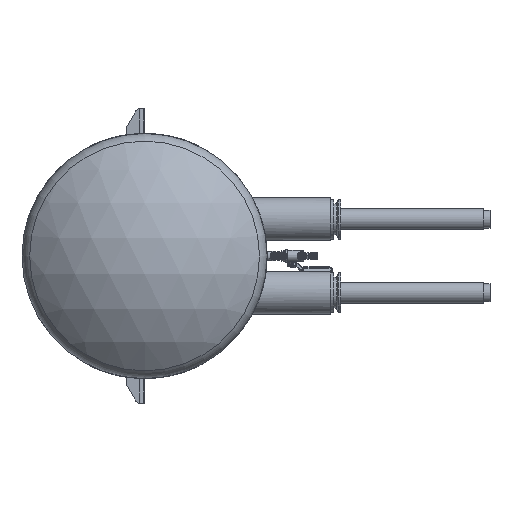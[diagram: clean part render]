
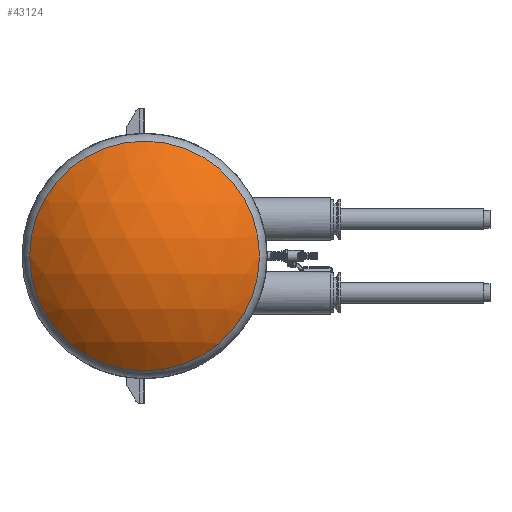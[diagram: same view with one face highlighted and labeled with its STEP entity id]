
A CAD part, left-side view. The second image highlights one B-rep face of the part: STEP entity #43124.
In plain terms, the highlighted spherical face has radius 346.109 mm.
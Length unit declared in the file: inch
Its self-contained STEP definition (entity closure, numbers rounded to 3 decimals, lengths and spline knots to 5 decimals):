
#3812 = CIRCLE ( 'NONE', #12239, 9.37618 ) ;
#12239 = AXIS2_PLACEMENT_3D ( 'NONE', #129295, #161772, #80207 ) ;
#35180 = FACE_OUTER_BOUND ( 'NONE', #90072, .T. ) ;
#43124 = ADVANCED_FACE ( 'NONE', ( #35180 ), #117587, .T. ) ;
#59614 = AXIS2_PLACEMENT_3D ( 'NONE', #170805, #157505, #89262 ) ;
#80207 = DIRECTION ( 'NONE',  ( 0., 0., -1. ) ) ;
#89262 = DIRECTION ( 'NONE',  ( 0., 1., 0. ) ) ;
#90072 = EDGE_LOOP ( 'NONE', ( #105584 ) ) ;
#96531 = VERTEX_POINT ( 'NONE', #165657 ) ;
#105584 = ORIENTED_EDGE ( 'NONE', *, *, #151827, .F. ) ;
#117587 = SPHERICAL_SURFACE ( 'NONE', #59614, 13.62635 ) ;
#129295 = CARTESIAN_POINT ( 'NONE',  ( -51.01125, 0., 0. ) ) ;
#151827 = EDGE_CURVE ( 'NONE', #96531, #96531, #3812, .T. ) ;
#157505 = DIRECTION ( 'NONE',  ( 0., 0., 1. ) ) ;
#161772 = DIRECTION ( 'NONE',  ( 1., 0., 0. ) ) ;
#165657 = CARTESIAN_POINT ( 'NONE',  ( -51.01125, 0., -9.37618 ) ) ;
#170805 = CARTESIAN_POINT ( 'NONE',  ( -41.12365, 0., 0. ) ) ;
